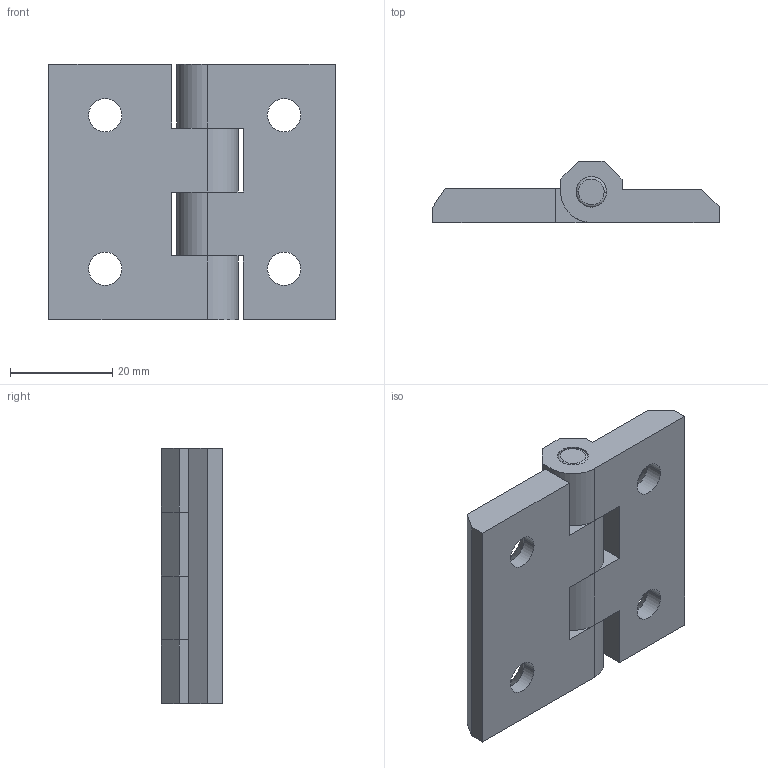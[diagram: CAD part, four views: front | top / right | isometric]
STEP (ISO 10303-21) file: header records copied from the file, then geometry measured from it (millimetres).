
FILE_DESCRIPTION (( 'STEP AP203' ), '1' );
FILE_NAME ('210-CE-HGAL-35.STEP', '2015-07-09T09:26:39', ( '' ), ( '' ), 'SwSTEP 2.0', 'SolidWorks 2013', '' );
FILE_SCHEMA (( 'CONFIG_CONTROL_DESIGN' ));
Length unit declared in the file: millimetre
Products named in the file (1): 210-CE-HGAL-35
Bounding box: 56 x 12 x 50 mm (x, y, z)
Surface area: 8901.4 mm2 (no closed solid volume)
Topology: 0 solids, 4 shells, 72 faces, 198 edges, 132 vertices
Faces by surface type: plane 44, cylinder 16, cone 8, torus 4
Entity records: 2394 total; most frequent: DIRECTION 404, CARTESIAN_POINT 403, ORIENTED_EDGE 384, EDGE_CURVE 198, LINE 138, VECTOR 138, AXIS2_PLACEMENT_3D 133, VERTEX_POINT 132
